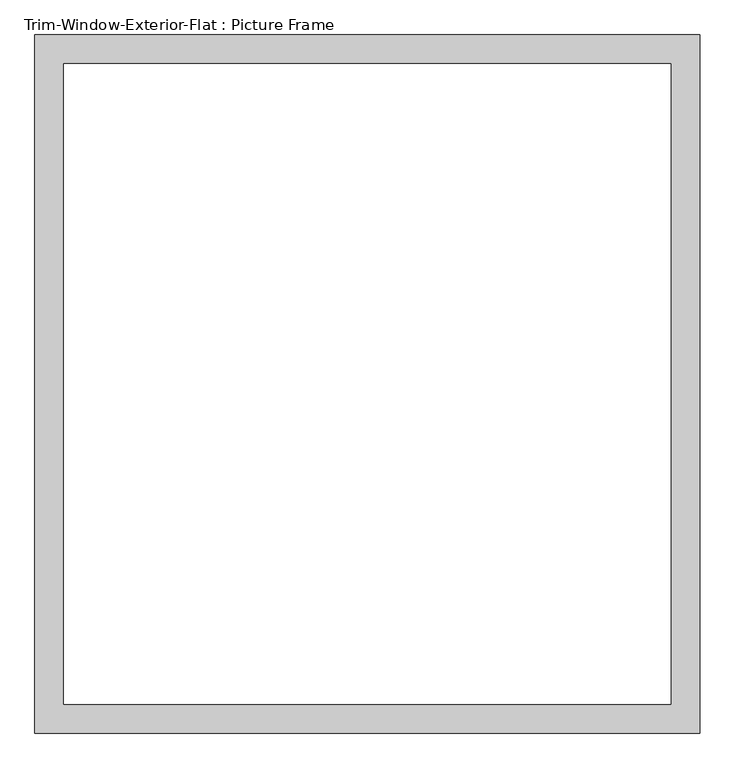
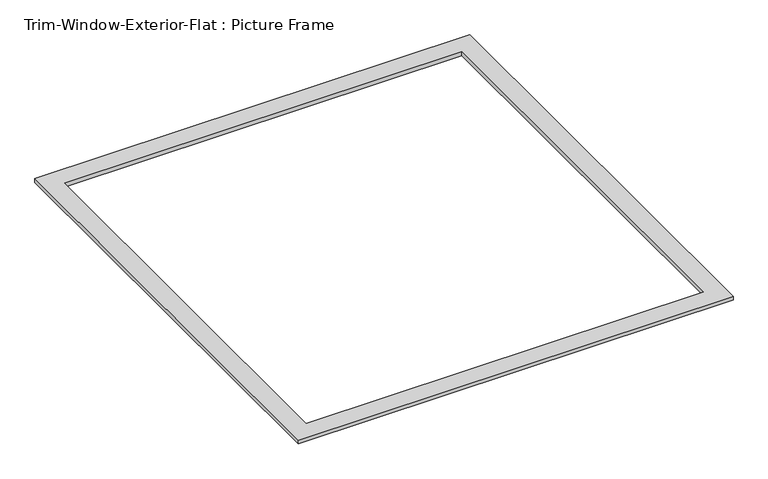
"""IFC4 building model written with IfcOpenShell, lengths in millimetres: proxy geometry, Trim-Window-Exterior-Flat : Picture Frame."""

from ifc_helpers import new_model, si_unit, origin, origin_with_axes, place, context, project, spatial, polyline, outline, extrude, source, transform, mapped, element, save


def trim_window_exterior_flat_picture_frame_fa1067d3(model_context):
    return source(origin(), model_context, "Body", "SweptSolid", [
        extrude(outline(polyline([(1028.7, 88.9), (1028.7, -2070.1), (-1028.7, -2070.1), (-1028.7, 88.9), (1028.7, 88.9)]), holes=[polyline([(939.8, 0.0), (-939.8, 0.0), (-939.8, -1981.2), (939.8, -1981.2), (939.8, 0.0)])]), origin_with_axes(), (0.0, 0.0, 1.0), 19.05),
    ])


if __name__ == "__main__":
    model = new_model("IFC4")
    model_context = context("Model", 3, world=origin())
    ifc_project = project(units=[si_unit("LENGTHUNIT", "METRE", prefix="MILLI")], contexts=[model_context])
    site = spatial("IfcSite", under=ifc_project)
    building = spatial("IfcBuilding", under=site)
    placement = place(None, origin())
    trim_window_exterior_flat_picture_frame_shape = trim_window_exterior_flat_picture_frame_fa1067d3(model_context)
    element("IfcBuildingElementProxy", 1, Name="Trim-Window-Exterior-Flat : Picture Frame", ObjectType="Trim-Window-Exterior-Flat : Picture Frame", at=placement, inside=building, context=model_context, shape_type="MappedRepresentation", body=[
        mapped(trim_window_exterior_flat_picture_frame_shape, transform((0.0, 0.0, 0.0), x_axis=(1.0, 0.0, 0.0), y_axis=(0.0, 1.0, 0.0), z_axis=(0.0, 0.0, 1.0))),
    ])
    save(model, "model.ifc")
